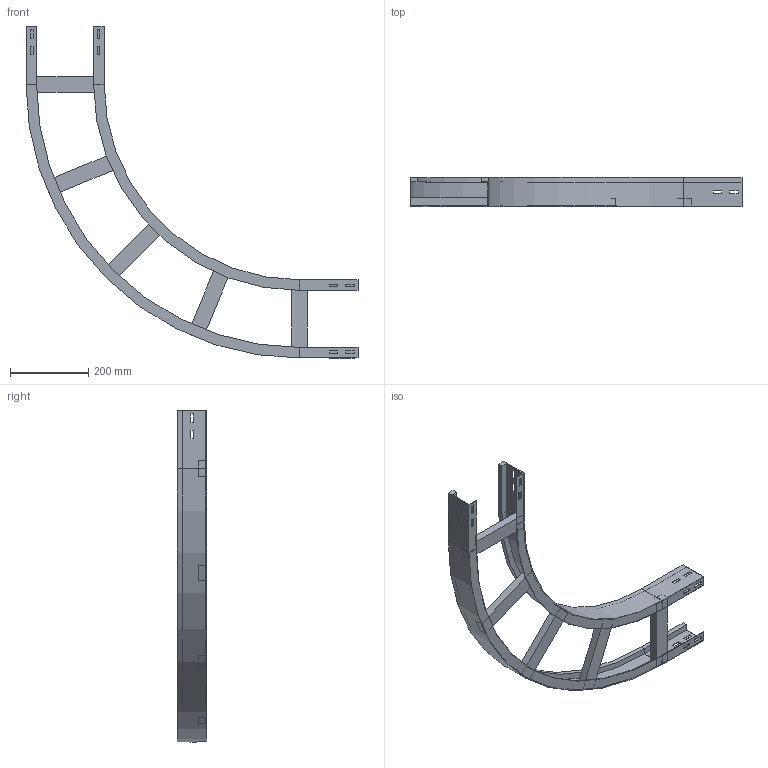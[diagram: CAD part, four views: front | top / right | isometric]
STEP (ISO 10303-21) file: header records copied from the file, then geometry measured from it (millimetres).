
FILE_DESCRIPTION (( 'STEP AP214' ), '1' );
FILE_NAME ('10B5C200.step', '2025-02-21T15:25:41', ( '' ), ( '' ), 'SwSTEP 2.0', 'SolidWorks 2023', '' );
FILE_SCHEMA (( 'AUTOMOTIVE_DESIGN' ));
Length unit declared in the file: millimetre
Products named in the file (4): 10B5C200; A2_LONGH.ESTERNO 90°_H75_R500+200; TRAVERSINO_200; A2_LONGH.INTERNO 90°_H75_R500
Assembly tree (7 placements, depth 2):
  10B5C200
    A2_LONGH.INTERNO 90°_H75_R500
    A2_LONGH.ESTERNO 90°_H75_R500+200
    TRAVERSINO_200  x5
Bounding box: 850 x 75 x 850 mm (x, y, z)
Volume: 1762974.6 mm3; surface area: 711625.5 mm2
Topology: 7 solids, 7 shells, 146 faces, 364 edges, 232 vertices
Faces by surface type: plane 138, cylinder 8
Entity records: 3837 total; most frequent: CARTESIAN_POINT 648, ORIENTED_EDGE 632, DIRECTION 596, EDGE_CURVE 316, VECTOR 300, LINE 300, VERTEX_POINT 200, EDGE_LOOP 154
